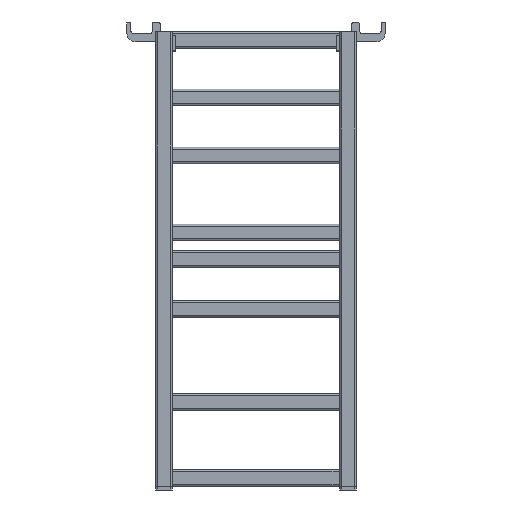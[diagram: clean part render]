
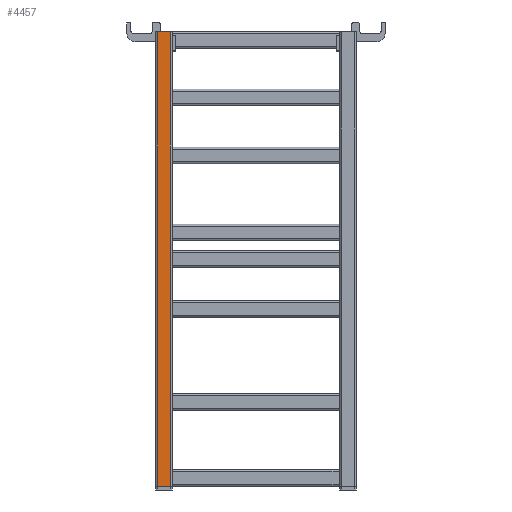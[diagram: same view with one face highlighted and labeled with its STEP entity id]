
A CAD part, left-side view. The second image highlights one B-rep face of the part: STEP entity #4457.
In plain terms, the highlighted planar face has unit normal (-1, 0, 0) as drawn and (0, 1, 0) by its records, which use the part's own axes.
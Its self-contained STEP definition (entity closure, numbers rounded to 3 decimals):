
#4457=ADVANCED_FACE('',(#5349),#5016,.T.);
#5016=PLANE('',#15059);
#5349=FACE_OUTER_BOUND('',#5886,.T.);
#5886=EDGE_LOOP('',(#6824,#6825,#6826,#6827));
#6824=ORIENTED_EDGE('',*,*,#11316,.F.);
#6825=ORIENTED_EDGE('',*,*,#11317,.T.);
#6826=ORIENTED_EDGE('',*,*,#11318,.T.);
#6827=ORIENTED_EDGE('',*,*,#11319,.T.);
#10094=VERTEX_POINT('',#19598);
#10095=VERTEX_POINT('',#19599);
#10096=VERTEX_POINT('',#19601);
#10097=VERTEX_POINT('',#19603);
#11316=EDGE_CURVE('',#10094,#10095,#12993,.T.);
#11317=EDGE_CURVE('',#10094,#10096,#12994,.T.);
#11318=EDGE_CURVE('',#10096,#10097,#12995,.T.);
#11319=EDGE_CURVE('',#10097,#10095,#12996,.T.);
#12993=LINE('',#19597,#14000);
#12994=LINE('',#19600,#14001);
#12995=LINE('',#19602,#14002);
#12996=LINE('',#19604,#14003);
#14000=VECTOR('',#16376,1.);
#14001=VECTOR('',#16377,1.);
#14002=VECTOR('',#16378,1.);
#14003=VECTOR('',#16379,1.);
#15059=AXIS2_PLACEMENT_3D('',#19605,#16380,#16381);
#16376=DIRECTION('',(0.,0.,-1.));
#16377=DIRECTION('',(1.,0.,0.));
#16378=DIRECTION('',(0.,0.,-1.));
#16379=DIRECTION('',(-1.,0.,0.));
#16380=DIRECTION('',(0.,1.,0.));
#16381=DIRECTION('',(0.,0.,1.));
#19597=CARTESIAN_POINT('',(0.,50.,0.));
#19598=CARTESIAN_POINT('',(0.,50.,-6.));
#19599=CARTESIAN_POINT('',(0.,50.,-44.));
#19600=CARTESIAN_POINT('',(1380.,50.,-6.));
#19601=CARTESIAN_POINT('',(1380.,50.,-6.));
#19602=CARTESIAN_POINT('',(1380.,50.,0.));
#19603=CARTESIAN_POINT('',(1380.,50.,-44.));
#19604=CARTESIAN_POINT('',(1380.,50.,-44.));
#19605=CARTESIAN_POINT('',(1380.,50.,0.));
